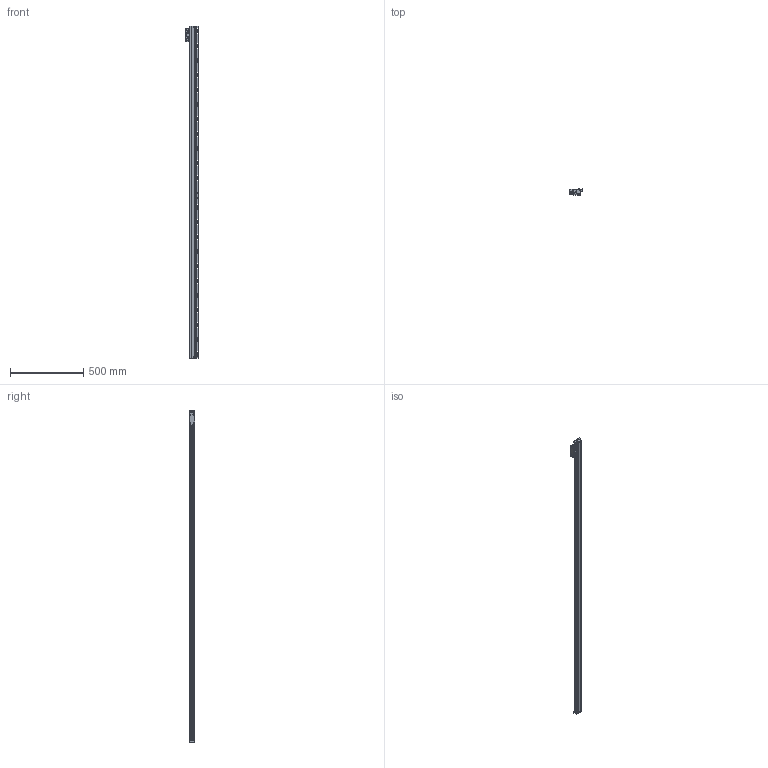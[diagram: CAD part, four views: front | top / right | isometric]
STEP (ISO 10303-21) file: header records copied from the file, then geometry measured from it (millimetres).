
FILE_DESCRIPTION(/* description */ (''),/* implementation_level */ '2;1');
FILE_NAME(/* name */ 'JC21A-2140-1.stp',/* time_stamp */ '2023-12-21T17:03:21+08:00',/* author */ (''),/* organization */ (''),/* preprocessor_version */ 'ST-DEVELOPER v14',/* originating_system */ 'SIEMENS PLM Software NX 8.0',/* authorisation */ '');
FILE_SCHEMA (('CONFIG_CONTROL_DESIGN'));
Length unit declared in the file: millimetre
Products named in the file (1): JC21A-2140-1
Bounding box: 87.5 x 37 x 2261 mm (x, y, z)
Volume: 3532328 mm3; surface area: 573388.6 mm2
Topology: 4 solids, 6 shells, 1251 faces, 3736 edges, 2487 vertices
Faces by surface type: plane 784, cylinder 435, cone 22, bspline 8, extrusion 2
Full cylindrical faces by diameter (mm): 2.5 x12, 3.3 x6, 3.7 x4, 4.2 x4, 5 x2, 6 x6, 6.6 x2, 6.8 x24, 7 x2, 13.2 x2
Entity records: 42987 total; most frequent: CARTESIAN_POINT 8755, ORIENTED_EDGE 7220, DIRECTION 7114, EDGE_CURVE 3610, VERTEX_POINT 2447, AXIS2_PLACEMENT_3D 2383, VECTOR 2348, LINE 2346
